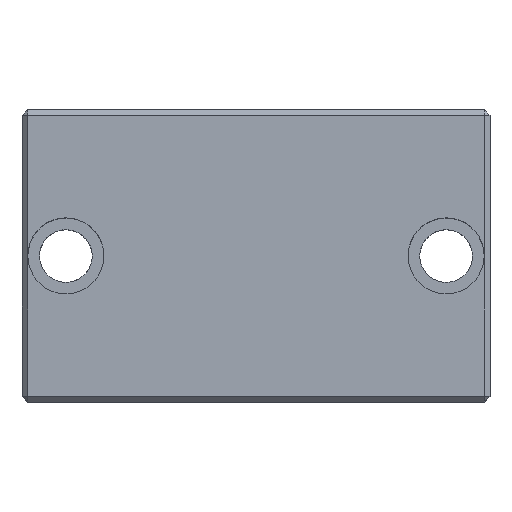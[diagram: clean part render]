
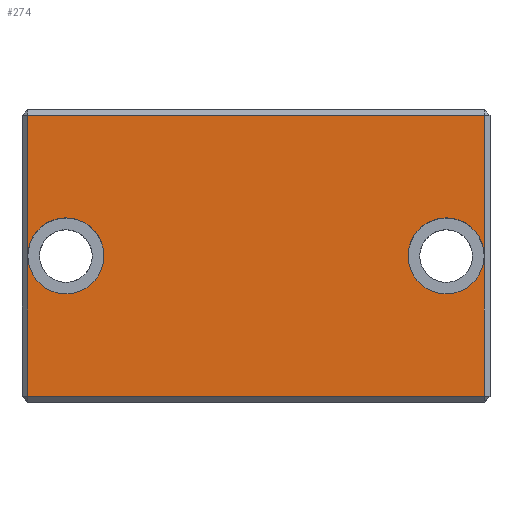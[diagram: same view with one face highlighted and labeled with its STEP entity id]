
A CAD part, top view. The second image highlights one B-rep face of the part: STEP entity #274.
In plain terms, the highlighted planar face has unit normal (0, 0, 1).
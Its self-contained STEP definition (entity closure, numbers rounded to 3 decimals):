
#70=CARTESIAN_POINT('Vertex',(-78.,0.,60.)) ;
#73=CARTESIAN_POINT('Axis2P3D Location',(-65.,0.,60.)) ;
#77=CARTESIAN_POINT('Vertex',(-52.,0.,60.)) ;
#193=CARTESIAN_POINT('Axis2P3D Location',(-65.,0.,60.)) ;
#205=CARTESIAN_POINT('Axis2P3D Location',(80.,-50.,60.)) ;
#210=CARTESIAN_POINT('Axis2P3D Location',(65.,0.,60.)) ;
#214=CARTESIAN_POINT('Vertex',(78.,0.,60.)) ;
#216=CARTESIAN_POINT('Vertex',(52.,0.,60.)) ;
#219=CARTESIAN_POINT('Line Origine',(78.,24.,60.)) ;
#223=CARTESIAN_POINT('Vertex',(78.,48.,60.)) ;
#226=CARTESIAN_POINT('Line Origine',(0.,48.,60.)) ;
#230=CARTESIAN_POINT('Vertex',(-78.,48.,60.)) ;
#233=CARTESIAN_POINT('Line Origine',(-78.,24.,60.)) ;
#238=CARTESIAN_POINT('Line Origine',(-78.,-24.,60.)) ;
#242=CARTESIAN_POINT('Vertex',(-78.,-48.,60.)) ;
#245=CARTESIAN_POINT('Line Origine',(0.,-48.,60.)) ;
#249=CARTESIAN_POINT('Vertex',(78.,-48.,60.)) ;
#252=CARTESIAN_POINT('Line Origine',(78.,-24.,60.)) ;
#257=CARTESIAN_POINT('Axis2P3D Location',(65.,0.,60.)) ;
#74=DIRECTION('Axis2P3D Direction',(0.,-0.,1.)) ;
#194=DIRECTION('Axis2P3D Direction',(0.,-0.,1.)) ;
#206=DIRECTION('Axis2P3D Direction',(-0.,0.,1.)) ;
#207=DIRECTION('Axis2P3D XDirection',(1.,0.,0.)) ;
#211=DIRECTION('Axis2P3D Direction',(-0.,0.,1.)) ;
#220=DIRECTION('Vector Direction',(0.,1.,0.)) ;
#227=DIRECTION('Vector Direction',(-1.,0.,0.)) ;
#234=DIRECTION('Vector Direction',(0.,-1.,0.)) ;
#239=DIRECTION('Vector Direction',(0.,-1.,0.)) ;
#246=DIRECTION('Vector Direction',(1.,0.,0.)) ;
#253=DIRECTION('Vector Direction',(0.,1.,0.)) ;
#258=DIRECTION('Axis2P3D Direction',(-0.,0.,1.)) ;
#75=AXIS2_PLACEMENT_3D('Circle Axis2P3D',#73,#74,$) ;
#195=AXIS2_PLACEMENT_3D('Circle Axis2P3D',#193,#194,$) ;
#208=AXIS2_PLACEMENT_3D('Plane Axis2P3D',#205,#206,#207) ;
#212=AXIS2_PLACEMENT_3D('Circle Axis2P3D',#210,#211,$) ;
#259=AXIS2_PLACEMENT_3D('Circle Axis2P3D',#257,#258,$) ;
#263=ORIENTED_EDGE('',*,*,#218,.F.) ;
#264=ORIENTED_EDGE('',*,*,#225,.T.) ;
#265=ORIENTED_EDGE('',*,*,#232,.T.) ;
#266=ORIENTED_EDGE('',*,*,#237,.T.) ;
#267=ORIENTED_EDGE('',*,*,#197,.F.) ;
#268=ORIENTED_EDGE('',*,*,#79,.F.) ;
#269=ORIENTED_EDGE('',*,*,#244,.T.) ;
#270=ORIENTED_EDGE('',*,*,#251,.T.) ;
#271=ORIENTED_EDGE('',*,*,#256,.T.) ;
#272=ORIENTED_EDGE('',*,*,#261,.F.) ;
#221=VECTOR('Line Direction',#220,1.) ;
#228=VECTOR('Line Direction',#227,1.) ;
#235=VECTOR('Line Direction',#234,1.) ;
#240=VECTOR('Line Direction',#239,1.) ;
#247=VECTOR('Line Direction',#246,1.) ;
#254=VECTOR('Line Direction',#253,1.) ;
#274=ADVANCED_FACE('Importato1',(#273),#209,.T.) ;
#76=CIRCLE('generated circle',#75,13.) ;
#196=CIRCLE('generated circle',#195,13.) ;
#213=CIRCLE('generated circle',#212,13.) ;
#260=CIRCLE('generated circle',#259,13.) ;
#79=EDGE_CURVE('',#71,#78,#76,.T.) ;
#197=EDGE_CURVE('',#78,#71,#196,.T.) ;
#218=EDGE_CURVE('',#215,#217,#213,.T.) ;
#225=EDGE_CURVE('',#215,#224,#222,.T.) ;
#232=EDGE_CURVE('',#224,#231,#229,.T.) ;
#237=EDGE_CURVE('',#231,#71,#236,.T.) ;
#244=EDGE_CURVE('',#71,#243,#241,.T.) ;
#251=EDGE_CURVE('',#243,#250,#248,.T.) ;
#256=EDGE_CURVE('',#250,#215,#255,.T.) ;
#261=EDGE_CURVE('',#217,#215,#260,.T.) ;
#262=EDGE_LOOP('',(#263,#264,#265,#266,#267,#268,#269,#270,#271,#272)) ;
#273=FACE_OUTER_BOUND('',#262,.T.) ;
#222=LINE('Line',#219,#221) ;
#229=LINE('Line',#226,#228) ;
#236=LINE('Line',#233,#235) ;
#241=LINE('Line',#238,#240) ;
#248=LINE('Line',#245,#247) ;
#255=LINE('Line',#252,#254) ;
#209=PLANE('Plane',#208) ;
#71=VERTEX_POINT('',#70) ;
#78=VERTEX_POINT('',#77) ;
#215=VERTEX_POINT('',#214) ;
#217=VERTEX_POINT('',#216) ;
#224=VERTEX_POINT('',#223) ;
#231=VERTEX_POINT('',#230) ;
#243=VERTEX_POINT('',#242) ;
#250=VERTEX_POINT('',#249) ;
